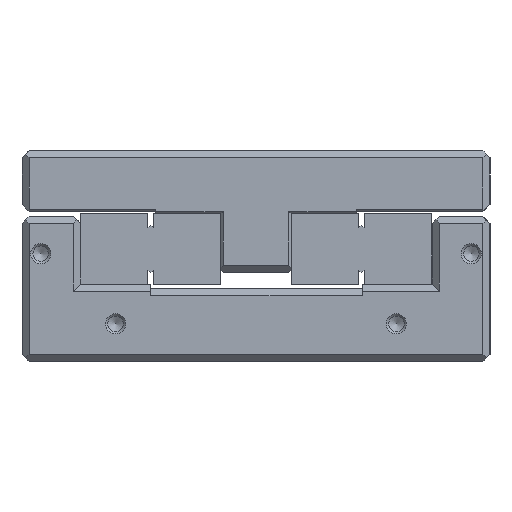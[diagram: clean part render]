
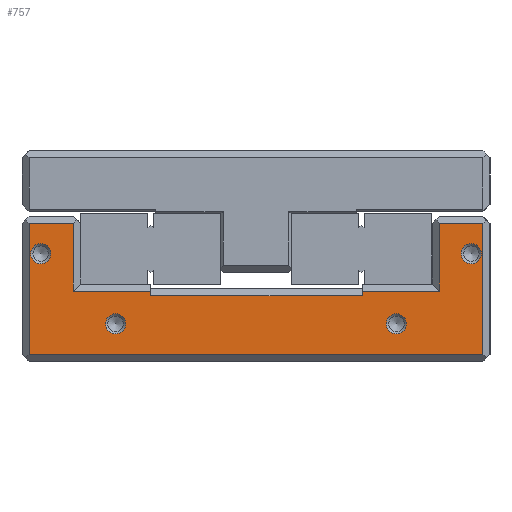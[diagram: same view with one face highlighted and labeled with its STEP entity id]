
A CAD part, left-side view. The second image highlights one B-rep face of the part: STEP entity #757.
In plain terms, the highlighted planar face has unit normal (-1, 0, 0).
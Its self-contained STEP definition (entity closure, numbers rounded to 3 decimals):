
#757=ADVANCED_FACE('',(#2273,#2274,#2275,#2276,#2277),#1066,.T.);
#1066=PLANE('',#7422);
#1320=LINE('',#11055,#1630);
#1321=LINE('',#11057,#1631);
#1322=LINE('',#11060,#1632);
#1323=LINE('',#11062,#1633);
#1324=LINE('',#11064,#1634);
#1325=LINE('',#11066,#1635);
#1326=LINE('',#11067,#1636);
#1327=LINE('',#11069,#1637);
#1328=LINE('',#11071,#1638);
#1329=LINE('',#11073,#1639);
#1330=LINE('',#11075,#1640);
#1331=LINE('',#11077,#1641);
#1630=VECTOR('',#9052,1.);
#1631=VECTOR('',#9055,1.);
#1632=VECTOR('',#9056,1.);
#1633=VECTOR('',#9057,1.);
#1634=VECTOR('',#9058,1.);
#1635=VECTOR('',#9059,1.);
#1636=VECTOR('',#9060,1.);
#1637=VECTOR('',#9061,1.);
#1638=VECTOR('',#9062,1.);
#1639=VECTOR('',#9063,1.);
#1640=VECTOR('',#9064,1.);
#1641=VECTOR('',#9065,1.);
#2273=FACE_BOUND('',#3168,.T.);
#2274=FACE_BOUND('',#3169,.T.);
#2275=FACE_BOUND('',#3170,.T.);
#2276=FACE_BOUND('',#3171,.T.);
#2277=FACE_BOUND('',#3172,.T.);
#3168=EDGE_LOOP('',(#4408,#4409,#4410,#4411,#4412,#4413,#4414,#4415,#4416,
#4417,#4418,#4419));
#3169=EDGE_LOOP('',(#4420));
#3170=EDGE_LOOP('',(#4421));
#3171=EDGE_LOOP('',(#4422));
#3172=EDGE_LOOP('',(#4423));
#4408=ORIENTED_EDGE('',*,*,#6181,.F.);
#4409=ORIENTED_EDGE('',*,*,#6182,.T.);
#4410=ORIENTED_EDGE('',*,*,#6183,.T.);
#4411=ORIENTED_EDGE('',*,*,#6184,.F.);
#4412=ORIENTED_EDGE('',*,*,#6185,.T.);
#4413=ORIENTED_EDGE('',*,*,#6180,.F.);
#4414=ORIENTED_EDGE('',*,*,#6186,.F.);
#4415=ORIENTED_EDGE('',*,*,#6187,.F.);
#4416=ORIENTED_EDGE('',*,*,#6188,.T.);
#4417=ORIENTED_EDGE('',*,*,#6189,.T.);
#4418=ORIENTED_EDGE('',*,*,#6190,.F.);
#4419=ORIENTED_EDGE('',*,*,#6191,.T.);
#4420=ORIENTED_EDGE('',*,*,#6192,.T.);
#4421=ORIENTED_EDGE('',*,*,#6193,.T.);
#4422=ORIENTED_EDGE('',*,*,#6194,.T.);
#4423=ORIENTED_EDGE('',*,*,#6195,.T.);
#5475=VERTEX_POINT('',#11049);
#5477=VERTEX_POINT('',#11054);
#5478=VERTEX_POINT('',#11058);
#5479=VERTEX_POINT('',#11059);
#5480=VERTEX_POINT('',#11061);
#5481=VERTEX_POINT('',#11063);
#5482=VERTEX_POINT('',#11065);
#5483=VERTEX_POINT('',#11068);
#5484=VERTEX_POINT('',#11070);
#5485=VERTEX_POINT('',#11072);
#5486=VERTEX_POINT('',#11074);
#5487=VERTEX_POINT('',#11076);
#5488=VERTEX_POINT('',#11079);
#5489=VERTEX_POINT('',#11081);
#5490=VERTEX_POINT('',#11083);
#5491=VERTEX_POINT('',#11085);
#6180=EDGE_CURVE('',#5477,#5475,#1320,.T.);
#6181=EDGE_CURVE('',#5478,#5479,#1321,.T.);
#6182=EDGE_CURVE('',#5478,#5480,#1322,.T.);
#6183=EDGE_CURVE('',#5480,#5481,#1323,.T.);
#6184=EDGE_CURVE('',#5482,#5481,#1324,.T.);
#6185=EDGE_CURVE('',#5482,#5475,#1325,.T.);
#6186=EDGE_CURVE('',#5483,#5477,#1326,.T.);
#6187=EDGE_CURVE('',#5484,#5483,#1327,.T.);
#6188=EDGE_CURVE('',#5484,#5485,#1328,.T.);
#6189=EDGE_CURVE('',#5485,#5486,#1329,.T.);
#6190=EDGE_CURVE('',#5487,#5486,#1330,.T.);
#6191=EDGE_CURVE('',#5487,#5479,#1331,.T.);
#6192=EDGE_CURVE('',#5488,#5488,#6737,.T.);
#6193=EDGE_CURVE('',#5489,#5489,#6738,.T.);
#6194=EDGE_CURVE('',#5490,#5490,#6739,.T.);
#6195=EDGE_CURVE('',#5491,#5491,#6740,.T.);
#6737=CIRCLE('',#7418,2.15);
#6738=CIRCLE('',#7419,2.15);
#6739=CIRCLE('',#7420,2.15);
#6740=CIRCLE('',#7421,2.15);
#7418=AXIS2_PLACEMENT_3D('',#11078,#9066,#9067);
#7419=AXIS2_PLACEMENT_3D('',#11080,#9068,#9069);
#7420=AXIS2_PLACEMENT_3D('',#11082,#9070,#9071);
#7421=AXIS2_PLACEMENT_3D('',#11084,#9072,#9073);
#7422=AXIS2_PLACEMENT_3D('',#11086,#9074,#9075);
#9052=DIRECTION('',(0.,1.,0.));
#9055=DIRECTION('',(0.,0.,-1.));
#9056=DIRECTION('',(0.,1.,0.));
#9057=DIRECTION('',(0.,0.,1.));
#9058=DIRECTION('',(0.,-1.,0.));
#9059=DIRECTION('',(0.,0.,-1.));
#9060=DIRECTION('',(0.,0.,-1.));
#9061=DIRECTION('',(0.,-1.,0.));
#9062=DIRECTION('',(0.,0.,-1.));
#9063=DIRECTION('',(0.,1.,0.));
#9064=DIRECTION('',(0.,0.,1.));
#9065=DIRECTION('',(0.,1.,0.));
#9066=DIRECTION('',(1.,0.,0.));
#9067=DIRECTION('',(0.,0.,1.));
#9068=DIRECTION('',(1.,0.,0.));
#9069=DIRECTION('',(0.,0.,1.));
#9070=DIRECTION('',(1.,0.,0.));
#9071=DIRECTION('',(0.,0.,1.));
#9072=DIRECTION('',(1.,0.,0.));
#9073=DIRECTION('',(0.,0.,1.));
#9074=DIRECTION('',(-1.,0.,0.));
#9075=DIRECTION('',(0.,-1.,0.));
#11049=CARTESIAN_POINT('',(-155.,48.5,1.5));
#11054=CARTESIAN_POINT('',(-155.,-48.5,1.5));
#11055=CARTESIAN_POINT('',(-155.,-48.5,1.5));
#11057=CARTESIAN_POINT('',(-155.,22.5,15.));
#11058=CARTESIAN_POINT('',(-155.,22.5,15.));
#11059=CARTESIAN_POINT('',(-155.,22.5,14.));
#11060=CARTESIAN_POINT('',(-155.,22.5,15.));
#11061=CARTESIAN_POINT('',(-155.,39.,15.));
#11062=CARTESIAN_POINT('',(-155.,39.,15.));
#11063=CARTESIAN_POINT('',(-155.,39.,29.5));
#11064=CARTESIAN_POINT('',(-155.,48.5,29.5));
#11065=CARTESIAN_POINT('',(-155.,48.5,29.5));
#11066=CARTESIAN_POINT('',(-155.,48.5,29.5));
#11067=CARTESIAN_POINT('',(-155.,-48.5,29.5));
#11068=CARTESIAN_POINT('',(-155.,-48.5,29.5));
#11069=CARTESIAN_POINT('',(-155.,-39.2,29.5));
#11070=CARTESIAN_POINT('',(-155.,-39.2,29.5));
#11071=CARTESIAN_POINT('',(-155.,-39.2,29.5));
#11072=CARTESIAN_POINT('',(-155.,-39.2,15.));
#11073=CARTESIAN_POINT('',(-155.,-39.2,15.));
#11074=CARTESIAN_POINT('',(-155.,-22.7,15.));
#11075=CARTESIAN_POINT('',(-155.,-22.7,14.));
#11076=CARTESIAN_POINT('',(-155.,-22.7,14.));
#11077=CARTESIAN_POINT('',(-155.,-22.7,14.));
#11078=CARTESIAN_POINT('',(-155.,-30.,8.));
#11079=CARTESIAN_POINT('',(-155.,-30.,10.15));
#11080=CARTESIAN_POINT('',(-155.,30.,8.));
#11081=CARTESIAN_POINT('',(-155.,30.,10.15));
#11082=CARTESIAN_POINT('',(-155.,46.,23.));
#11083=CARTESIAN_POINT('',(-155.,46.,25.15));
#11084=CARTESIAN_POINT('',(-155.,-46.,23.));
#11085=CARTESIAN_POINT('',(-155.,-46.,25.15));
#11086=CARTESIAN_POINT('',(-155.,50.,0.));
